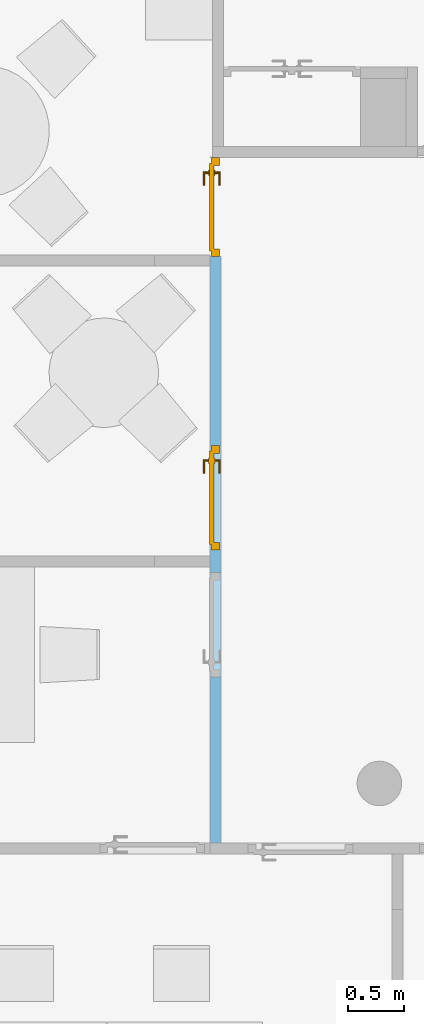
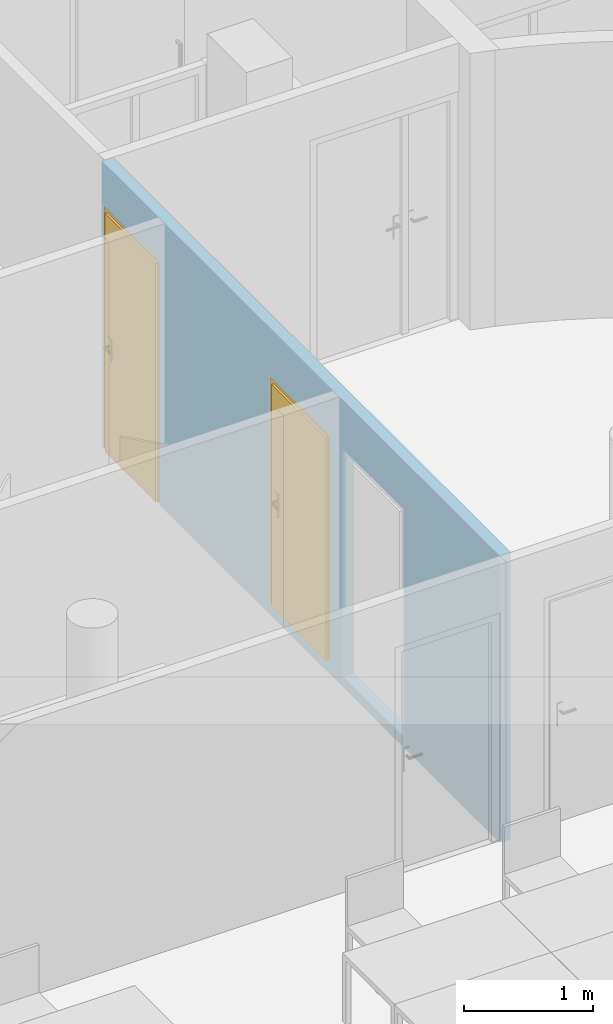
"""IFC4 building model written with IfcOpenShell, lengths in metres."""

from ifc_helpers import new_model, entity, si_unit, converted_unit, derived_unit, frame, frame_2d, origin, origin_with_axes, place, context, subcontext, project, spatial, polyline, rectangle, outline, extrude, faceted_brep, source, transform, mapped, material, layer, layer_set, layer_usage, element, fill, save


model = new_model("IFC4")

# Units and contexts
model_context = context("Model", 3, precision=1e-05, world=origin())
body_context = subcontext(model_context, "Body", "Model", "MODEL_VIEW")
ifc_project = project(units=[si_unit("LENGTHUNIT", "METRE"), si_unit("AREAUNIT", "SQUARE_METRE"), si_unit("VOLUMEUNIT", "CUBIC_METRE"), si_unit("MASSUNIT", "GRAM", prefix="KILO"), converted_unit("PLANEANGLEUNIT", "DEGREE", entity("IfcPlaneAngleMeasure", 0.0174532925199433), si_unit("PLANEANGLEUNIT", "RADIAN"), dimensions=[0, 0, 0, 0, 0, 0, 0]), derived_unit("THERMALTRANSMITTANCEUNIT", [(si_unit("POWERUNIT", "WATT"), 1), (si_unit("THERMODYNAMICTEMPERATUREUNIT", "KELVIN"), -1), (si_unit("LENGTHUNIT", "METRE"), -2)]), derived_unit("VOLUMETRICFLOWRATEUNIT", [(si_unit("LENGTHUNIT", "METRE"), 3), (converted_unit("TIMEUNIT", "hour", entity("IfcTimeMeasure", 3600.0), si_unit("TIMEUNIT", "SECOND"), dimensions=[0, 0, 1, 0, 0, 0, 0]), -1), (si_unit("LENGTHUNIT", "METRE"), -1)])], contexts=[model_context])

# Building, storeys
building_placement = place(None, origin())
building = spatial("IfcBuilding", under=ifc_project, at=building_placement, Name="HABITATGE PLURIFAMILIAR", CompositionType="ELEMENT")
storey_1_placement = place(building_placement, frame((0.0, 0.0, 12.27)))
storey_1 = spatial("IfcBuildingStorey", under=building, at=storey_1_placement, Name="PLANTA TERCERA", CompositionType="ELEMENT", Elevation=12.27)
storey_2_placement = place(storey_1_placement, frame((0.0, 0.0, 9.26)))
storey_2 = spatial("IfcBuildingStorey", under=storey_1, at=storey_2_placement, Name="NOU", CompositionType="PARTIAL")

# Wall, openings, doors
ifc_material = material()
ifc_layer = layer(ifc_material, 0.1)
ifc_layer_set = layer_set([ifc_layer])
ifc_layer_usage = layer_usage(ifc_layer_set, "AXIS2", "POSITIVE", 0.0)
wall_placement = place(storey_2_placement, frame((404.316984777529, 23.4216900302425, -9.36), z_axis=(0.0, 0.0, 1.0), x_axis=(0.0, -1.0, 0.0)))
wall = element("IfcWall", 1, at=wall_placement, inside=storey_2, material=ifc_layer_usage, Name="Mampara P3", context=body_context, shape_type="SweptSolid", body=[
    extrude(rectangle(XDim=6.15544888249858, YDim=0.1, at=frame_2d((3.07772444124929, 0.05), x_axis=(1.0, 0.0))), origin_with_axes(), (0.0, 0.0, 1.0), 2.71),
])
opening_1_placement = place(wall_placement, frame((0.00523926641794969, 0.0, 0.0), z_axis=(0.0, 1.0, 0.0), x_axis=(0.0, 0.0, 1.0)))
opening_1 = element("IfcOpeningElement", 2, at=opening_1_placement, cuts=wall, Name="Vano porta P3", ObjectType="Opening", context=body_context, shape_type="SweptSolid", body=[
    extrude(outline(polyline([(2.3, 0.888009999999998), (2.3, 0.0), (0.0, 0.0), (0.0, 0.888009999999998), (2.3, 0.888009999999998)])), origin_with_axes(), (0.0, 0.0, 1.0), 0.1),
])
opening_2_placement = place(wall_placement, frame((2.58848843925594, 0.0, 0.1), z_axis=(0.0, 1.0, 0.0), x_axis=(0.0, 0.0, 1.0)))
opening_2 = element("IfcOpeningElement", 3, at=opening_2_placement, cuts=wall, Name="Vano porta P3", ObjectType="Opening", context=body_context, shape_type="SweptSolid", body=[
    extrude(outline(polyline([(2.15, 0.94), (2.15, 0.0), (0.0, 0.0), (0.0, 0.94), (2.15, 0.94)])), origin_with_axes(), (0.0, 0.0, 1.0), 0.1),
])
opening_3_placement = place(wall_placement, frame((3.72848843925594, 0.0, 0.1), z_axis=(0.0, 1.0, 0.0), x_axis=(0.0, 0.0, 1.0)))
element("IfcOpeningElement", 4, at=opening_3_placement, cuts=wall, Name="Vano porta P3", ObjectType="Opening", context=body_context, shape_type="SweptSolid", body=[
    extrude(outline(polyline([(2.15, 0.94), (2.15, 0.0), (0.0, 0.0), (0.0, 0.94), (2.15, 0.94)])), origin_with_axes(), (0.0, 0.0, 1.0), 0.1),
])
shared_shape_1 = source(origin_with_axes(), body_context, "Body", "Brep", [
    faceted_brep([(0.888009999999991, 0.0700000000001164, 2.3), (0.818009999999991, 0.0700000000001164, 2.3), (0.818009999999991, 0.0700000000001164, 0.0), (0.888009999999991, 0.0700000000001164, 0.0), (0.888009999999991, 0.0, 0.0), (0.818009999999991, 0.0, 0.0), (0.818009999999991, 0.0, 2.3), (0.888009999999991, 0.0, 2.3)], [[[0, 1, 2, 3]], [[4, 5, 6, 7]], [[3, 4, 7, 0]], [[2, 5, 4, 3]], [[1, 6, 5, 2]], [[0, 7, 6, 1]]], orient=[[False], [False], [False], [False], [False], [False]]),
    faceted_brep([(0.0700000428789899, 0.0700000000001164, 2.3), (4.2878989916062e-08, 0.0700000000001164, 2.3), (4.2878989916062e-08, 0.0700000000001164, 0.0), (0.0700000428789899, 0.0700000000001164, 0.0), (0.0700000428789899, 0.0, 0.0), (4.2878989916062e-08, 0.0, 0.0), (4.2878989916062e-08, 0.0, 2.3), (0.0700000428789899, 0.0, 2.3)], [[[0, 1, 2, 3]], [[4, 5, 6, 7]], [[3, 4, 7, 0]], [[2, 5, 4, 3]], [[1, 6, 5, 2]], [[0, 7, 6, 1]]], orient=[[False], [False], [False], [False], [False], [False]]),
    faceted_brep([(0.818009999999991, 0.0700000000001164, 2.3), (0.0700000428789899, 0.0700000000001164, 2.3), (0.0700000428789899, 0.0700000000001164, 2.23), (0.818009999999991, 0.0700000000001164, 2.23), (0.818009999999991, 0.0, 2.23), (0.0700000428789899, 0.0, 2.23), (0.0700000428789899, 0.0, 2.3), (0.818009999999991, 0.0, 2.3)], [[[0, 1, 2, 3]], [[4, 5, 6, 7]], [[3, 4, 7, 0]], [[2, 5, 4, 3]], [[1, 6, 5, 2]], [[0, 7, 6, 1]]], orient=[[False], [False], [False], [False], [False], [False]]),
    faceted_brep([(0.838009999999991, 0.0900000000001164, 2.25), (0.0500000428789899, 0.0900000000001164, 2.25), (0.0500000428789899, 0.0900000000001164, 0.0), (0.838009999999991, 0.0900000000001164, 0.0), (0.838009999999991, 0.0500000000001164, 0.0), (0.0500000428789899, 0.0500000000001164, 0.0), (0.0500000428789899, 0.0500000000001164, 2.25), (0.838009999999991, 0.0500000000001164, 2.25)], [[[0, 1, 2, 3]], [[4, 5, 6, 7]], [[3, 4, 7, 0]], [[2, 5, 4, 3]], [[1, 6, 5, 2]], [[0, 7, 6, 1]]], orient=[[False], [False], [False], [False], [False], [False]]),
    faceted_brep([(0.778009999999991, 0.0500000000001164, 1.125), (0.728009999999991, 0.0500000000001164, 1.125), (0.728009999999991, 0.0500000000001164, 0.91), (0.778009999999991, 0.0500000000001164, 0.91), (0.778009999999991, 0.0400000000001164, 0.91), (0.728009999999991, 0.0400000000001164, 0.91), (0.728009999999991, 0.0400000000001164, 1.125), (0.778009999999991, 0.0400000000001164, 1.125)], [[[0, 1, 2, 3]], [[4, 5, 6, 7]], [[3, 4, 7, 0]], [[2, 5, 4, 3]], [[1, 6, 5, 2]], [[0, 7, 6, 1]]], orient=[[False], [False], [False], [False], [False], [False]]),
    faceted_brep([(0.753009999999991, 0.0400000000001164, 1.06), (0.748009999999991, 0.0400000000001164, 1.05866025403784), (0.744349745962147, 0.0400000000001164, 1.055), (0.743009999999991, 0.0400000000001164, 1.05), (0.744349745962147, 0.0400000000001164, 1.045), (0.748009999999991, 0.0400000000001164, 1.04133974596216), (0.753009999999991, 0.0400000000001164, 1.04), (0.758009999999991, 0.0400000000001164, 1.04133974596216), (0.761670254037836, 0.0400000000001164, 1.045), (0.763009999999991, 0.0400000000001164, 1.05), (0.761670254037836, 0.0400000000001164, 1.055), (0.758009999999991, 0.0400000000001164, 1.05866025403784), (0.758009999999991, -0.00499999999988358, 1.05866025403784), (0.753009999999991, 0.0, 1.06), (0.761670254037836, -0.00866025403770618, 1.055), (0.763009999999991, -0.00999999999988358, 1.05), (0.761670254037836, -0.00866025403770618, 1.045), (0.758009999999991, -0.00499999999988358, 1.04133974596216), (0.753009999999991, 0.0, 1.04), (0.748009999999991, 0.00500000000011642, 1.04133974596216), (0.744349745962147, 0.00866025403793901, 1.045), (0.743009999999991, 0.0100000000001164, 1.05), (0.744349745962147, 0.00866025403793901, 1.055), (0.748009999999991, 0.00500000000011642, 1.05866025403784), (0.638009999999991, 0.0, 1.06), (0.638009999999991, -0.00499999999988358, 1.05866025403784), (0.638009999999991, -0.00866025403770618, 1.055), (0.638009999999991, -0.00999999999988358, 1.05), (0.638009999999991, -0.00866025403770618, 1.045), (0.638009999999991, -0.00499999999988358, 1.04133974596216), (0.638009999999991, 0.0, 1.04), (0.638009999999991, 0.00500000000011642, 1.04133974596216), (0.638009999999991, 0.00866025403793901, 1.045), (0.638009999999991, 0.0100000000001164, 1.05), (0.638009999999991, 0.00866025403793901, 1.055), (0.638009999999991, 0.00500000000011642, 1.05866025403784)], [[[0, 1, 2, 3, 4, 5, 6, 7, 8, 9, 10, 11]], [[0, 11, 12, 13]], [[11, 10, 14, 12]], [[10, 9, 15, 14]], [[9, 8, 16, 15]], [[8, 7, 17, 16]], [[7, 6, 18, 17]], [[6, 5, 19, 18]], [[5, 4, 20, 19]], [[4, 3, 21, 20]], [[3, 2, 22, 21]], [[2, 1, 23, 22]], [[1, 0, 13, 23]], [[24, 25, 26, 27, 28, 29, 30, 31, 32, 33, 34, 35]], [[13, 12, 25, 24]], [[12, 14, 26, 25]], [[14, 15, 27, 26]], [[15, 16, 28, 27]], [[16, 17, 29, 28]], [[17, 18, 30, 29]], [[18, 19, 31, 30]], [[19, 20, 32, 31]], [[20, 21, 33, 32]], [[21, 22, 34, 33]], [[22, 23, 35, 34]], [[23, 13, 24, 35]]], orient=[[False], [False], [False], [False], [False], [False], [False], [False], [False], [False], [False], [False], [False], [False], [False], [False], [False], [False], [False], [False], [False], [False], [False], [False], [False], [False]]),
    faceted_brep([(0.778009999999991, 0.0900000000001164, 1.125), (0.778009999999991, 0.0900000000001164, 0.91), (0.728009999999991, 0.0900000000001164, 0.91), (0.728009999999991, 0.0900000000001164, 1.125), (0.778009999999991, 0.100000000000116, 0.91), (0.778009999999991, 0.100000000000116, 1.125), (0.728009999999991, 0.100000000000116, 1.125), (0.728009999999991, 0.100000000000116, 0.91)], [[[0, 1, 2, 3]], [[4, 5, 6, 7]], [[1, 0, 5, 4]], [[2, 1, 4, 7]], [[3, 2, 7, 6]], [[0, 3, 6, 5]]], orient=[[False], [False], [False], [False], [False], [False]]),
    faceted_brep([(0.753009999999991, 0.100000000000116, 1.06), (0.758009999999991, 0.100000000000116, 1.05866025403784), (0.761670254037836, 0.100000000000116, 1.055), (0.763009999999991, 0.100000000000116, 1.05), (0.761670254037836, 0.100000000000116, 1.045), (0.758009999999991, 0.100000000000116, 1.04133974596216), (0.753009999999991, 0.100000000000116, 1.04), (0.748009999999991, 0.100000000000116, 1.04133974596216), (0.744349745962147, 0.100000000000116, 1.045), (0.743009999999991, 0.100000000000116, 1.05), (0.744349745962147, 0.100000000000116, 1.055), (0.748009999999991, 0.100000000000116, 1.05866025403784), (0.753009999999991, 0.140000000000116, 1.06), (0.758009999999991, 0.145000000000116, 1.05866025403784), (0.761670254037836, 0.148660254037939, 1.055), (0.763009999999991, 0.150000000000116, 1.05), (0.761670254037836, 0.148660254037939, 1.045), (0.758009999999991, 0.145000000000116, 1.04133974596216), (0.753009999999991, 0.140000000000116, 1.04), (0.748009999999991, 0.135000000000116, 1.04133974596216), (0.744349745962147, 0.131339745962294, 1.045), (0.743009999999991, 0.130000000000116, 1.05), (0.744349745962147, 0.131339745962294, 1.055), (0.748009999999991, 0.135000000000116, 1.05866025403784), (0.638009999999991, 0.140000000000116, 1.06), (0.638009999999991, 0.135000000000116, 1.05866025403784), (0.638009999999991, 0.131339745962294, 1.055), (0.638009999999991, 0.130000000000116, 1.05), (0.638009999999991, 0.131339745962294, 1.045), (0.638009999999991, 0.135000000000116, 1.04133974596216), (0.638009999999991, 0.140000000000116, 1.04), (0.638009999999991, 0.145000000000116, 1.04133974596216), (0.638009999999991, 0.148660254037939, 1.045), (0.638009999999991, 0.150000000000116, 1.05), (0.638009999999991, 0.148660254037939, 1.055), (0.638009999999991, 0.145000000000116, 1.05866025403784)], [[[0, 1, 2, 3, 4, 5, 6, 7, 8, 9, 10, 11]], [[0, 12, 13, 1]], [[1, 13, 14, 2]], [[2, 14, 15, 3]], [[3, 15, 16, 4]], [[4, 16, 17, 5]], [[5, 17, 18, 6]], [[6, 18, 19, 7]], [[7, 19, 20, 8]], [[8, 20, 21, 9]], [[9, 21, 22, 10]], [[10, 22, 23, 11]], [[11, 23, 12, 0]], [[24, 25, 26, 27, 28, 29, 30, 31, 32, 33, 34, 35]], [[12, 24, 35, 13]], [[13, 35, 34, 14]], [[14, 34, 33, 15]], [[15, 33, 32, 16]], [[16, 32, 31, 17]], [[17, 31, 30, 18]], [[18, 30, 29, 19]], [[19, 29, 28, 20]], [[20, 28, 27, 21]], [[21, 27, 26, 22]], [[22, 26, 25, 23]], [[23, 25, 24, 12]]], orient=[[False], [False], [False], [False], [False], [False], [False], [False], [False], [False], [False], [False], [False], [False], [False], [False], [False], [False], [False], [False], [False], [False], [False], [False], [False], [False]]),
])
door_1_placement = place(opening_1_placement, frame((0.0, 0.888009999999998, 0.085), z_axis=(1.0, 0.0, 0.0), x_axis=(0.0, -1.0, 0.0)))
door_1 = element("IfcDoor", 5, at=door_1_placement, inside=storey_2, Name="Porta P3", OperationType="USERDEFINED", OverallHeight=2.3, OverallWidth=0.88801, PredefinedType="DOOR", context=body_context, shape_type="MappedRepresentation", body=[
    mapped(shared_shape_1, transform((0.0, 0.0, 0.0), x_axis=(1.0, 0.0, 0.0), y_axis=(0.0, 1.0, 0.0), z_axis=(0.0, 0.0, 1.0), scale=1.0)),
])
fill(opening_1, door_1)
shared_shape_2 = source(origin_with_axes(), body_context, "Body", "Brep", [
    faceted_brep([(0.939999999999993, 0.0700000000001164, 2.15), (0.869999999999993, 0.0700000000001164, 2.15), (0.869999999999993, 0.0700000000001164, 0.0), (0.939999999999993, 0.0700000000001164, 0.0), (0.939999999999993, 0.0, 0.0), (0.869999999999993, 0.0, 0.0), (0.869999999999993, 0.0, 2.15), (0.939999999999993, 0.0, 2.15)], [[[0, 1, 2, 3]], [[4, 5, 6, 7]], [[3, 4, 7, 0]], [[2, 5, 4, 3]], [[1, 6, 5, 2]], [[0, 7, 6, 1]]], orient=[[False], [False], [False], [False], [False], [False]]),
    faceted_brep([(0.0699999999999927, 0.0700000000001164, 2.15), (0.0, 0.0700000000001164, 2.15), (0.0, 0.0700000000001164, 0.0), (0.0699999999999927, 0.0700000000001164, 0.0), (0.0699999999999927, 0.0, 0.0), (0.0, 0.0, 0.0), (0.0, 0.0, 2.15), (0.0699999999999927, 0.0, 2.15)], [[[0, 1, 2, 3]], [[4, 5, 6, 7]], [[3, 4, 7, 0]], [[2, 5, 4, 3]], [[1, 6, 5, 2]], [[0, 7, 6, 1]]], orient=[[False], [False], [False], [False], [False], [False]]),
    faceted_brep([(0.869999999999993, 0.0700000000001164, 2.15), (0.0699999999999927, 0.0700000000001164, 2.15), (0.0699999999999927, 0.0700000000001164, 2.08), (0.869999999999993, 0.0700000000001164, 2.08), (0.869999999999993, 0.0, 2.08), (0.0699999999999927, 0.0, 2.08), (0.0699999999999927, 0.0, 2.15), (0.869999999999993, 0.0, 2.15)], [[[0, 1, 2, 3]], [[4, 5, 6, 7]], [[3, 4, 7, 0]], [[2, 5, 4, 3]], [[1, 6, 5, 2]], [[0, 7, 6, 1]]], orient=[[False], [False], [False], [False], [False], [False]]),
    faceted_brep([(0.889999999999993, 0.0900000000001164, 2.1), (0.0499999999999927, 0.0900000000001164, 2.1), (0.0499999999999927, 0.0900000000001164, 0.0), (0.889999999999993, 0.0900000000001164, 0.0), (0.889999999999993, 0.0500000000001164, 0.0), (0.0499999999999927, 0.0500000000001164, 0.0), (0.0499999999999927, 0.0500000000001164, 2.1), (0.889999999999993, 0.0500000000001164, 2.1)], [[[0, 1, 2, 3]], [[4, 5, 6, 7]], [[3, 4, 7, 0]], [[2, 5, 4, 3]], [[1, 6, 5, 2]], [[0, 7, 6, 1]]], orient=[[False], [False], [False], [False], [False], [False]]),
    faceted_brep([(0.829999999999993, 0.0500000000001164, 1.125), (0.779999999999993, 0.0500000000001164, 1.125), (0.779999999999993, 0.0500000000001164, 0.91), (0.829999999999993, 0.0500000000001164, 0.91), (0.829999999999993, 0.0400000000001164, 0.91), (0.779999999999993, 0.0400000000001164, 0.91), (0.779999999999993, 0.0400000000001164, 1.125), (0.829999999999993, 0.0400000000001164, 1.125)], [[[0, 1, 2, 3]], [[4, 5, 6, 7]], [[3, 4, 7, 0]], [[2, 5, 4, 3]], [[1, 6, 5, 2]], [[0, 7, 6, 1]]], orient=[[False], [False], [False], [False], [False], [False]]),
    faceted_brep([(0.804999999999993, 0.0400000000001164, 1.06), (0.799999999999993, 0.0400000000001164, 1.05866025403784), (0.796339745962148, 0.0400000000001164, 1.055), (0.794999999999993, 0.0400000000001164, 1.05), (0.796339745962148, 0.0400000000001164, 1.045), (0.799999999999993, 0.0400000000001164, 1.04133974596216), (0.804999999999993, 0.0400000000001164, 1.04), (0.809999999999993, 0.0400000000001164, 1.04133974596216), (0.813660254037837, 0.0400000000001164, 1.045), (0.814999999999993, 0.0400000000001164, 1.05), (0.813660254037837, 0.0400000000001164, 1.055), (0.809999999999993, 0.0400000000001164, 1.05866025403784), (0.809999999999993, -0.00499999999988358, 1.05866025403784), (0.804999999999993, 0.0, 1.06), (0.813660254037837, -0.00866025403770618, 1.055), (0.814999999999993, -0.00999999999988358, 1.05), (0.813660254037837, -0.00866025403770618, 1.045), (0.809999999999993, -0.00499999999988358, 1.04133974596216), (0.804999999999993, 0.0, 1.04), (0.799999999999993, 0.00500000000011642, 1.04133974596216), (0.796339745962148, 0.00866025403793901, 1.045), (0.794999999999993, 0.0100000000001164, 1.05), (0.796339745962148, 0.00866025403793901, 1.055), (0.799999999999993, 0.00500000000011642, 1.05866025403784), (0.689999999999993, 0.0, 1.06), (0.689999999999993, -0.00499999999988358, 1.05866025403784), (0.689999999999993, -0.00866025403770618, 1.055), (0.689999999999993, -0.00999999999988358, 1.05), (0.689999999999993, -0.00866025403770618, 1.045), (0.689999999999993, -0.00499999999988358, 1.04133974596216), (0.689999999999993, 0.0, 1.04), (0.689999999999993, 0.00500000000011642, 1.04133974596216), (0.689999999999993, 0.00866025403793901, 1.045), (0.689999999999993, 0.0100000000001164, 1.05), (0.689999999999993, 0.00866025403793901, 1.055), (0.689999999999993, 0.00500000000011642, 1.05866025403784)], [[[0, 1, 2, 3, 4, 5, 6, 7, 8, 9, 10, 11]], [[0, 11, 12, 13]], [[11, 10, 14, 12]], [[10, 9, 15, 14]], [[9, 8, 16, 15]], [[8, 7, 17, 16]], [[7, 6, 18, 17]], [[6, 5, 19, 18]], [[5, 4, 20, 19]], [[4, 3, 21, 20]], [[3, 2, 22, 21]], [[2, 1, 23, 22]], [[1, 0, 13, 23]], [[24, 25, 26, 27, 28, 29, 30, 31, 32, 33, 34, 35]], [[13, 12, 25, 24]], [[12, 14, 26, 25]], [[14, 15, 27, 26]], [[15, 16, 28, 27]], [[16, 17, 29, 28]], [[17, 18, 30, 29]], [[18, 19, 31, 30]], [[19, 20, 32, 31]], [[20, 21, 33, 32]], [[21, 22, 34, 33]], [[22, 23, 35, 34]], [[23, 13, 24, 35]]], orient=[[False], [False], [False], [False], [False], [False], [False], [False], [False], [False], [False], [False], [False], [False], [False], [False], [False], [False], [False], [False], [False], [False], [False], [False], [False], [False]]),
    faceted_brep([(0.829999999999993, 0.0900000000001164, 1.125), (0.829999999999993, 0.0900000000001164, 0.91), (0.779999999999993, 0.0900000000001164, 0.91), (0.779999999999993, 0.0900000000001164, 1.125), (0.829999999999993, 0.100000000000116, 0.91), (0.829999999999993, 0.100000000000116, 1.125), (0.779999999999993, 0.100000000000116, 1.125), (0.779999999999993, 0.100000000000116, 0.91)], [[[0, 1, 2, 3]], [[4, 5, 6, 7]], [[1, 0, 5, 4]], [[2, 1, 4, 7]], [[3, 2, 7, 6]], [[0, 3, 6, 5]]], orient=[[False], [False], [False], [False], [False], [False]]),
    faceted_brep([(0.804999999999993, 0.100000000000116, 1.06), (0.809999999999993, 0.100000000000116, 1.05866025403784), (0.813660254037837, 0.100000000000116, 1.055), (0.814999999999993, 0.100000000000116, 1.05), (0.813660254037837, 0.100000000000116, 1.045), (0.809999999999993, 0.100000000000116, 1.04133974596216), (0.804999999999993, 0.100000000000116, 1.04), (0.799999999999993, 0.100000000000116, 1.04133974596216), (0.796339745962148, 0.100000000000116, 1.045), (0.794999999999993, 0.100000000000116, 1.05), (0.796339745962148, 0.100000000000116, 1.055), (0.799999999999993, 0.100000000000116, 1.05866025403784), (0.804999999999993, 0.140000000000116, 1.06), (0.809999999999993, 0.145000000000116, 1.05866025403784), (0.813660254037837, 0.148660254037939, 1.055), (0.814999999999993, 0.150000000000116, 1.05), (0.813660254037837, 0.148660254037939, 1.045), (0.809999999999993, 0.145000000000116, 1.04133974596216), (0.804999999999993, 0.140000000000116, 1.04), (0.799999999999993, 0.135000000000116, 1.04133974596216), (0.796339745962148, 0.131339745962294, 1.045), (0.794999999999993, 0.130000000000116, 1.05), (0.796339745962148, 0.131339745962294, 1.055), (0.799999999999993, 0.135000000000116, 1.05866025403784), (0.689999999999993, 0.140000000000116, 1.06), (0.689999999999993, 0.135000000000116, 1.05866025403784), (0.689999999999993, 0.131339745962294, 1.055), (0.689999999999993, 0.130000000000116, 1.05), (0.689999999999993, 0.131339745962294, 1.045), (0.689999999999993, 0.135000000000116, 1.04133974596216), (0.689999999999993, 0.140000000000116, 1.04), (0.689999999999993, 0.145000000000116, 1.04133974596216), (0.689999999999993, 0.148660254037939, 1.045), (0.689999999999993, 0.150000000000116, 1.05), (0.689999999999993, 0.148660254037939, 1.055), (0.689999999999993, 0.145000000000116, 1.05866025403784)], [[[0, 1, 2, 3, 4, 5, 6, 7, 8, 9, 10, 11]], [[0, 12, 13, 1]], [[1, 13, 14, 2]], [[2, 14, 15, 3]], [[3, 15, 16, 4]], [[4, 16, 17, 5]], [[5, 17, 18, 6]], [[6, 18, 19, 7]], [[7, 19, 20, 8]], [[8, 20, 21, 9]], [[9, 21, 22, 10]], [[10, 22, 23, 11]], [[11, 23, 12, 0]], [[24, 25, 26, 27, 28, 29, 30, 31, 32, 33, 34, 35]], [[12, 24, 35, 13]], [[13, 35, 34, 14]], [[14, 34, 33, 15]], [[15, 33, 32, 16]], [[16, 32, 31, 17]], [[17, 31, 30, 18]], [[18, 30, 29, 19]], [[19, 29, 28, 20]], [[20, 28, 27, 21]], [[21, 27, 26, 22]], [[22, 26, 25, 23]], [[23, 25, 24, 12]]], orient=[[False], [False], [False], [False], [False], [False], [False], [False], [False], [False], [False], [False], [False], [False], [False], [False], [False], [False], [False], [False], [False], [False], [False], [False], [False], [False]]),
])
door_2_placement = place(opening_2_placement, frame((0.0, 0.94, 0.085), z_axis=(1.0, 0.0, 0.0), x_axis=(0.0, -1.0, 0.0)))
door_2 = element("IfcDoor", 6, at=door_2_placement, inside=storey_2, Name="Porta P3", OperationType="USERDEFINED", OverallHeight=2.15, OverallWidth=0.94, PredefinedType="DOOR", context=body_context, shape_type="MappedRepresentation", body=[
    mapped(shared_shape_2, transform((0.0, 0.0, 0.0), x_axis=(1.0, 0.0, 0.0), y_axis=(0.0, 1.0, 0.0), z_axis=(0.0, 0.0, 1.0), scale=1.0)),
])
fill(opening_2, door_2)

save(model, "model.ifc")
